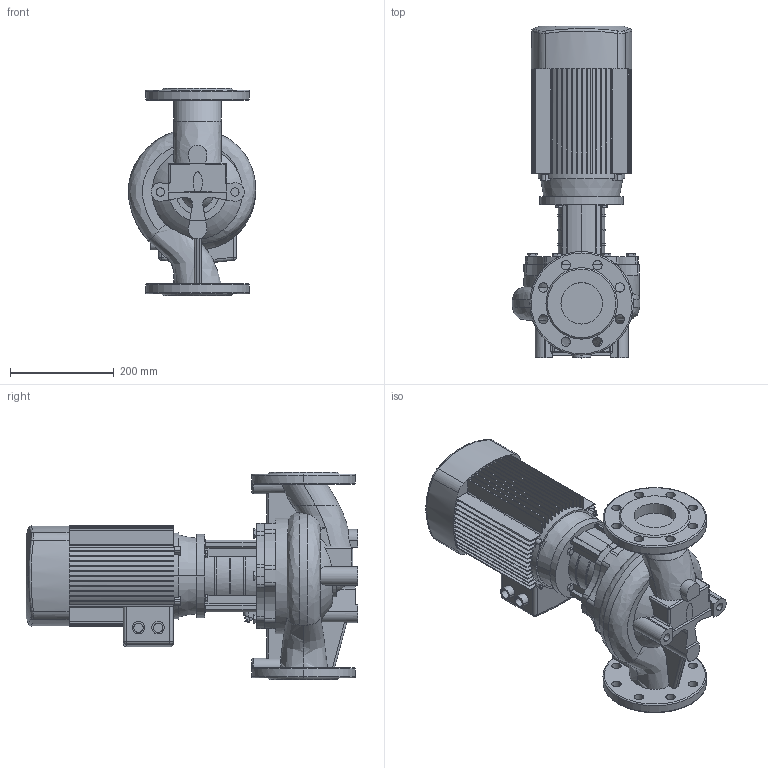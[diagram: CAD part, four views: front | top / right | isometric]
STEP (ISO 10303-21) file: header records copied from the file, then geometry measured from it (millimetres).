
FILE_DESCRIPTION (( 'STEP AP203' ), '1' );
FILE_NAME ('TD80-13G／2.STEP', '2026-09-07T02:29:03', ( '' ), ( '' ), 'SwSTEP 2.0', 'SolidWorks 2020', '' );
FILE_SCHEMA (( 'CONFIG_CONTROL_DESIGN' ));
Products named in the file (1): TD80-13Gㄞ2
Bounding box: 246.08 x 641 x 400 mm (x, y, z)
Volume: 18636424.2 mm3; surface area: 1118791.9 mm2
Topology: 1 solids, 11 shells, 951 faces, 2553 edges, 1654 vertices
Faces by surface type: plane 483, cylinder 258, cone 95, bspline 57, torus 52, sphere 6
Entity records: 41594 total; most frequent: CARTESIAN_POINT 17953, ORIENTED_EDGE 5094, DIRECTION 4797, EDGE_CURVE 2547, AXIS2_PLACEMENT_3D 1832, VERTEX_POINT 1654, LINE 1133, VECTOR 1133
